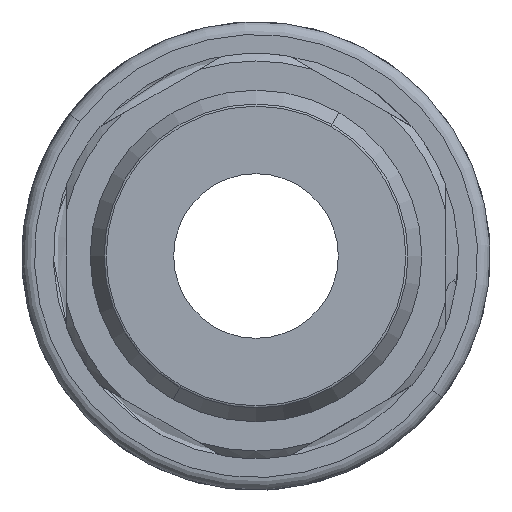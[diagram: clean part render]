
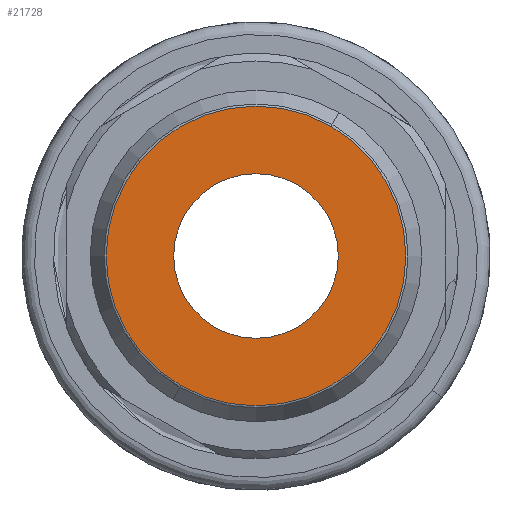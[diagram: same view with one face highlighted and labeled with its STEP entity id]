
A CAD part, front view. The second image highlights one B-rep face of the part: STEP entity #21728.
In plain terms, the highlighted planar face has unit normal (0, -1, 0).
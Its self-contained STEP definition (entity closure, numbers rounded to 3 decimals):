
#383 = FACE_BOUND ( 'NONE', #32307, .T. ) ;
#1469 = DIRECTION ( 'NONE',  ( 0.5, 0., 0.866 ) ) ;
#3246 = CARTESIAN_POINT ( 'NONE',  ( -9.894, 0., -16.578 ) ) ;
#4082 = ORIENTED_EDGE ( 'NONE', *, *, #22182, .T. ) ;
#5008 = DIRECTION ( 'NONE',  ( 0., -1., 0. ) ) ;
#5914 = DIRECTION ( 'NONE',  ( 0., 1., 0. ) ) ;
#10632 = DIRECTION ( 'NONE',  ( 0., 1., 0. ) ) ;
#11064 = EDGE_LOOP ( 'NONE', ( #42635, #22817 ) ) ;
#11178 = DIRECTION ( 'NONE',  ( 0., 1., 0. ) ) ;
#13068 = DIRECTION ( 'NONE',  ( 0., -1., 0. ) ) ;
#14006 = VERTEX_POINT ( 'NONE', #32717 ) ;
#17222 = CIRCLE ( 'NONE', #27185, 3.25 ) ;
#17307 = CARTESIAN_POINT ( 'NONE',  ( -9.894, 0., -16.578 ) ) ;
#18890 = EDGE_CURVE ( 'NONE', #14006, #25882, #41365, .T. ) ;
#21728 = ADVANCED_FACE ( 'NONE', ( #45457, #383 ), #28305, .F. ) ;
#22182 = EDGE_CURVE ( 'NONE', #36019, #29442, #41886, .T. ) ;
#22387 = DIRECTION ( 'NONE',  ( 0.5, 0., 0.866 ) ) ;
#22817 = ORIENTED_EDGE ( 'NONE', *, *, #18890, .T. ) ;
#25415 = CIRCLE ( 'NONE', #47890, 5.915 ) ;
#25882 = VERTEX_POINT ( 'NONE', #45172 ) ;
#27115 = AXIS2_PLACEMENT_3D ( 'NONE', #17307, #13068, #43465 ) ;
#27185 = AXIS2_PLACEMENT_3D ( 'NONE', #33097, #11178, #48300 ) ;
#27394 = CARTESIAN_POINT ( 'NONE',  ( -9.894, 0., -16.578 ) ) ;
#28305 = PLANE ( 'NONE',  #37516 ) ;
#28922 = ORIENTED_EDGE ( 'NONE', *, *, #39320, .T. ) ;
#29442 = VERTEX_POINT ( 'NONE', #33913 ) ;
#32307 = EDGE_LOOP ( 'NONE', ( #4082, #28922 ) ) ;
#32717 = CARTESIAN_POINT ( 'NONE',  ( -12.852, 0., -21.701 ) ) ;
#33097 = CARTESIAN_POINT ( 'NONE',  ( -9.894, 0., -16.578 ) ) ;
#33913 = CARTESIAN_POINT ( 'NONE',  ( -8.269, 0., -13.764 ) ) ;
#34383 = AXIS2_PLACEMENT_3D ( 'NONE', #3246, #10632, #22387 ) ;
#34945 = DIRECTION ( 'NONE',  ( 0.5, 0., 0.866 ) ) ;
#36019 = VERTEX_POINT ( 'NONE', #39580 ) ;
#37516 = AXIS2_PLACEMENT_3D ( 'NONE', #46786, #5914, #1469 ) ;
#39320 = EDGE_CURVE ( 'NONE', #29442, #36019, #17222, .T. ) ;
#39580 = CARTESIAN_POINT ( 'NONE',  ( -11.519, 0., -19.393 ) ) ;
#40300 = EDGE_CURVE ( 'NONE', #25882, #14006, #25415, .T. ) ;
#41365 = CIRCLE ( 'NONE', #27115, 5.915 ) ;
#41886 = CIRCLE ( 'NONE', #34383, 3.25 ) ;
#42635 = ORIENTED_EDGE ( 'NONE', *, *, #40300, .T. ) ;
#43465 = DIRECTION ( 'NONE',  ( 0.5, 0., 0.866 ) ) ;
#45172 = CARTESIAN_POINT ( 'NONE',  ( -6.937, 0., -11.456 ) ) ;
#45457 = FACE_OUTER_BOUND ( 'NONE', #11064, .T. ) ;
#46786 = CARTESIAN_POINT ( 'NONE',  ( -9.894, 0., -16.578 ) ) ;
#47890 = AXIS2_PLACEMENT_3D ( 'NONE', #27394, #5008, #34945 ) ;
#48300 = DIRECTION ( 'NONE',  ( 0.5, 0., 0.866 ) ) ;
